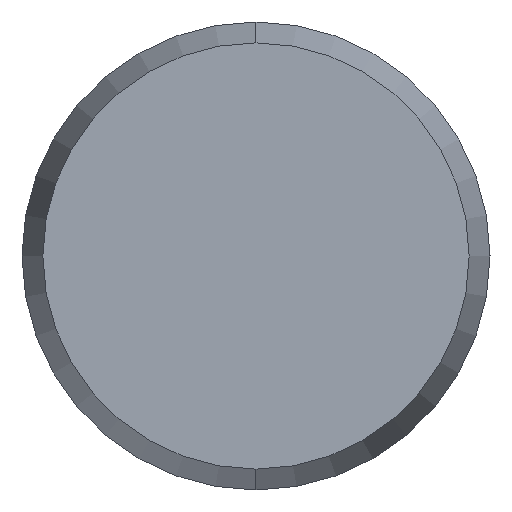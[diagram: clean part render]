
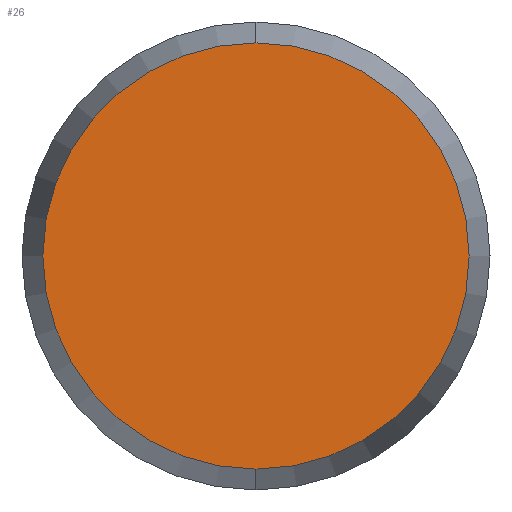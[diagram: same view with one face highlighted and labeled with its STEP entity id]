
A CAD part, left-side view. The second image highlights one B-rep face of the part: STEP entity #26.
In plain terms, the highlighted planar face has unit normal (-1, 0, 0).
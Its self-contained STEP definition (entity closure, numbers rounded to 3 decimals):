
#18 = DIRECTION ( 'NONE',  ( 0., 0., -1. ) ) ;
#19 = DIRECTION ( 'NONE',  ( 1., 0., 0. ) ) ;
#20 = CARTESIAN_POINT ( 'NONE',  ( -22.5, 0., 0. ) ) ;
#21 = AXIS2_PLACEMENT_3D ( 'NONE', #20, #19, #18 ) ;
#22 = PLANE ( 'NONE',  #21 ) ;
#23 = FACE_OUTER_BOUND ( 'NONE', #135, .T. ) ;
#25 = ORIENTED_EDGE ( 'NONE', *, *, #191, .F. ) ;
#26 = ADVANCED_FACE ( 'NONE', ( #23 ), #22, .F. ) ;
#27 = ORIENTED_EDGE ( 'NONE', *, *, #187, .F. ) ;
#69 = DIRECTION ( 'NONE',  ( 0., 0., -1. ) ) ;
#70 = DIRECTION ( 'NONE',  ( 1., 0., 0. ) ) ;
#71 = CARTESIAN_POINT ( 'NONE',  ( -22.5, 0., 0. ) ) ;
#72 = AXIS2_PLACEMENT_3D ( 'NONE', #71, #70, #69 ) ;
#73 = CIRCLE ( 'NONE', #72, 2.732 ) ;
#75 = CARTESIAN_POINT ( 'NONE',  ( -22.5, 0., -2.732 ) ) ;
#76 = CARTESIAN_POINT ( 'NONE',  ( -22.5, 0., 2.732 ) ) ;
#77 = DIRECTION ( 'NONE',  ( 0., 0., -1. ) ) ;
#78 = DIRECTION ( 'NONE',  ( 1., 0., 0. ) ) ;
#79 = CARTESIAN_POINT ( 'NONE',  ( -22.5, 0., 0. ) ) ;
#80 = AXIS2_PLACEMENT_3D ( 'NONE', #79, #78, #77 ) ;
#81 = CIRCLE ( 'NONE', #80, 2.732 ) ;
#135 = EDGE_LOOP ( 'NONE', ( #27, #25 ) ) ;
#187 = EDGE_CURVE ( 'NONE', #188, #189, #81, .T. ) ;
#188 = VERTEX_POINT ( 'NONE', #76 ) ;
#189 = VERTEX_POINT ( 'NONE', #75 ) ;
#191 = EDGE_CURVE ( 'NONE', #189, #188, #73, .T. ) ;
